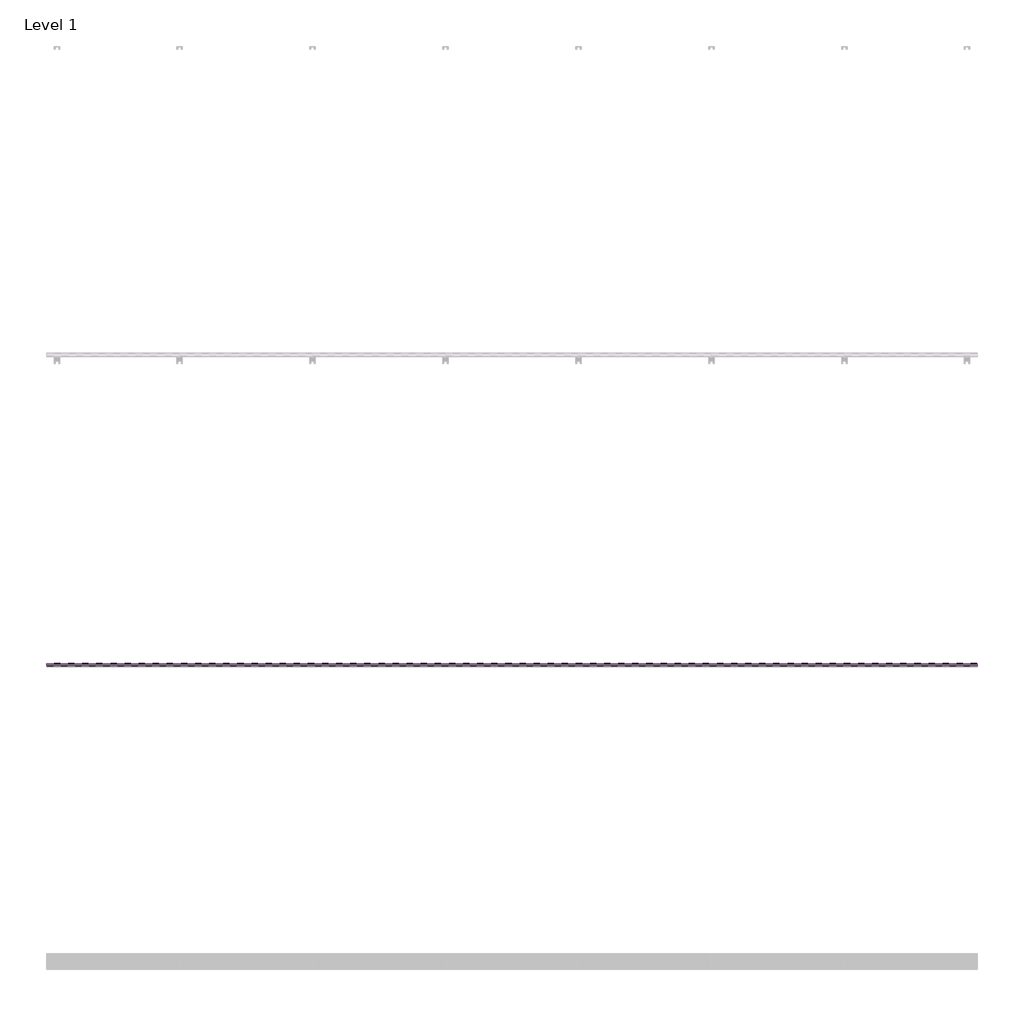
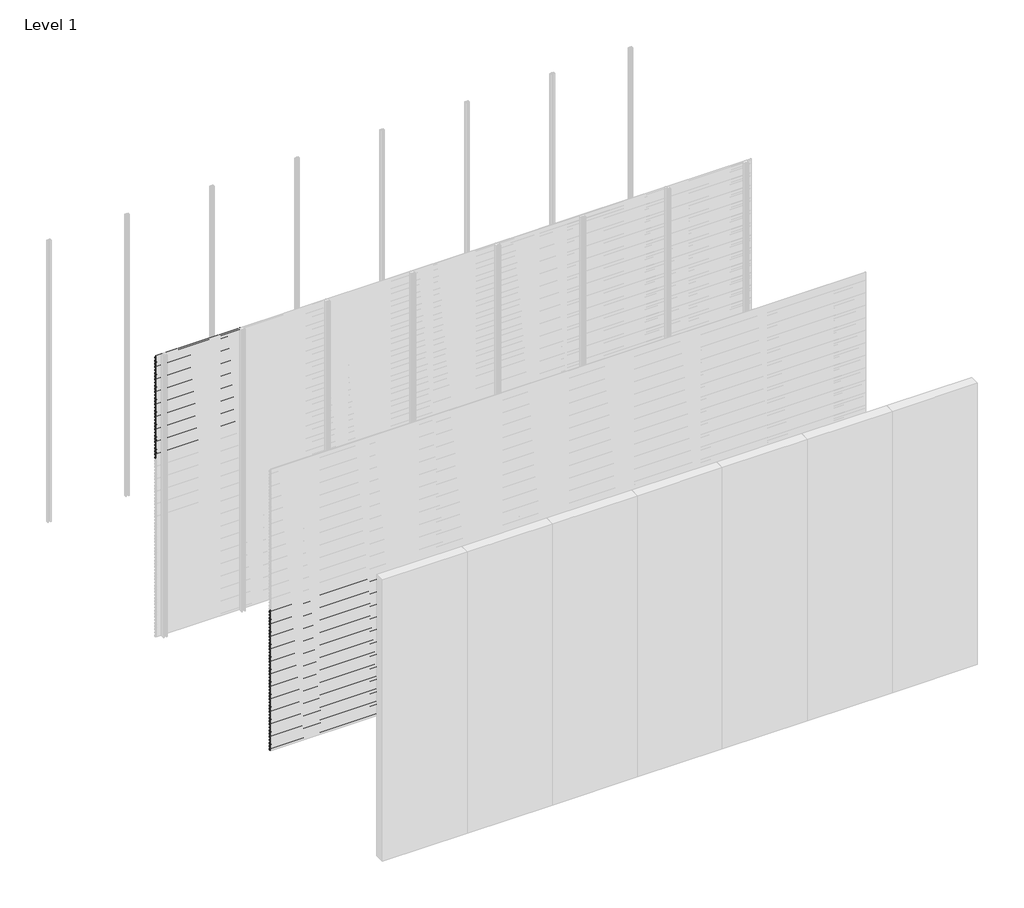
# One storey, part 70 of 96: 78 proxies.
"""IFC4 building model written with IfcOpenShell, lengths in millimetres."""

from ifc_helpers import new_model, si_unit, frame, origin, place, context, project, spatial, polyline, outline, extrude, element, save

model = new_model("IFC4")

# Units and contexts
model_context = context("Model", 3, world=origin())
ifc_project = project(units=[si_unit("LENGTHUNIT", "METRE", prefix="MILLI")], contexts=[model_context])

# Site, building, storey
site = spatial("IfcSite", under=ifc_project)
building = spatial("IfcBuilding", under=site)
storey = spatial("IfcBuildingStorey", under=building, Name="Level 1", Elevation=0.0)

# Proxies
placement = place(None, origin())
element("IfcBuildingElementProxy", 1, Name="Wall Sweeps", at=placement, inside=storey, context=model_context, shape_type="SweptSolid", body=[
    extrude(outline(polyline([(-11977.6, 2971.7655033), (-11977.6, 2957.4779188), (-11982.4114965, 2954.7), (-11982.4114965, 2955.9701706), (-11978.85, 2958.0264016), (-11978.85, 2971.0437382), (-11998.0, 2982.1000799), (-11998.0, 2997.0), (-11996.75, 2997.0), (-11996.75, 2982.8217609), (-11977.6, 2971.7655033)])), frame((0.0, 0.0, 0.0), z_axis=(1.0, 0.0, 0.0), x_axis=(0.0, 1.0, 0.0)), (0.0, 0.0, 1.0), 857.1428571),
])
element("IfcBuildingElementProxy", 2, Name="Wall Sweeps", at=placement, inside=storey, context=model_context, shape_type="SweptSolid", body=[
    extrude(outline(polyline([(-11977.6, 2938.4655033), (-11977.6, 2924.1779188), (-11982.4114965, 2921.4), (-11982.4114965, 2922.6701706), (-11978.85, 2924.7264016), (-11978.85, 2937.7437382), (-11998.0, 2948.8000799), (-11998.0, 2963.7), (-11996.75, 2963.7), (-11996.75, 2949.5217609), (-11977.6, 2938.4655033)])), frame((0.0, 0.0, 0.0), z_axis=(1.0, 0.0, 0.0), x_axis=(0.0, 1.0, 0.0)), (0.0, 0.0, 1.0), 857.1428571),
])
element("IfcBuildingElementProxy", 3, Name="Wall Sweeps", at=placement, inside=storey, context=model_context, shape_type="SweptSolid", body=[
    extrude(outline(polyline([(-11977.6, 2905.1655033), (-11977.6, 2890.8779188), (-11982.4114965, 2888.1), (-11982.4114965, 2889.3701706), (-11978.85, 2891.4264016), (-11978.85, 2904.4437382), (-11998.0, 2915.5000799), (-11998.0, 2930.4), (-11996.75, 2930.4), (-11996.75, 2916.2217609), (-11977.6, 2905.1655033)])), frame((0.0, 0.0, 0.0), z_axis=(1.0, 0.0, 0.0), x_axis=(0.0, 1.0, 0.0)), (0.0, 0.0, 1.0), 857.1428571),
])
element("IfcBuildingElementProxy", 4, Name="Wall Sweeps", at=placement, inside=storey, context=model_context, shape_type="SweptSolid", body=[
    extrude(outline(polyline([(-11977.6, 2871.8655033), (-11977.6, 2857.5779188), (-11982.4114965, 2854.8), (-11982.4114965, 2856.0701706), (-11978.85, 2858.1264016), (-11978.85, 2871.1437382), (-11998.0, 2882.2000799), (-11998.0, 2897.1), (-11996.75, 2897.1), (-11996.75, 2882.9217609), (-11977.6, 2871.8655033)])), frame((0.0, 0.0, 0.0), z_axis=(1.0, 0.0, 0.0), x_axis=(0.0, 1.0, 0.0)), (0.0, 0.0, 1.0), 857.1428571),
])
element("IfcBuildingElementProxy", 5, Name="Wall Sweeps", at=placement, inside=storey, context=model_context, shape_type="SweptSolid", body=[
    extrude(outline(polyline([(-11977.6, 2838.5655033), (-11977.6, 2824.2779188), (-11982.4114965, 2821.5), (-11982.4114965, 2822.7701706), (-11978.85, 2824.8264016), (-11978.85, 2837.8437382), (-11998.0, 2848.9000799), (-11998.0, 2863.8), (-11996.75, 2863.8), (-11996.75, 2849.6217609), (-11977.6, 2838.5655033)])), frame((0.0, 0.0, 0.0), z_axis=(1.0, 0.0, 0.0), x_axis=(0.0, 1.0, 0.0)), (0.0, 0.0, 1.0), 857.1428571),
])
element("IfcBuildingElementProxy", 6, Name="Wall Sweeps", at=placement, inside=storey, context=model_context, shape_type="SweptSolid", body=[
    extrude(outline(polyline([(-11977.6, 2805.2655033), (-11977.6, 2790.9779188), (-11982.4114965, 2788.2), (-11982.4114965, 2789.4701706), (-11978.85, 2791.5264016), (-11978.85, 2804.5437382), (-11998.0, 2815.6000799), (-11998.0, 2830.5), (-11996.75, 2830.5), (-11996.75, 2816.3217609), (-11977.6, 2805.2655033)])), frame((0.0, 0.0, 0.0), z_axis=(1.0, 0.0, 0.0), x_axis=(0.0, 1.0, 0.0)), (0.0, 0.0, 1.0), 857.1428571),
])
element("IfcBuildingElementProxy", 7, Name="Wall Sweeps", at=placement, inside=storey, context=model_context, shape_type="SweptSolid", body=[
    extrude(outline(polyline([(-11977.6, 2771.9655033), (-11977.6, 2757.6779188), (-11982.4114965, 2754.9), (-11982.4114965, 2756.1701706), (-11978.85, 2758.2264016), (-11978.85, 2771.2437382), (-11998.0, 2782.3000799), (-11998.0, 2797.2), (-11996.75, 2797.2), (-11996.75, 2783.0217609), (-11977.6, 2771.9655033)])), frame((0.0, 0.0, 0.0), z_axis=(1.0, 0.0, 0.0), x_axis=(0.0, 1.0, 0.0)), (0.0, 0.0, 1.0), 857.1428571),
])
element("IfcBuildingElementProxy", 8, Name="Wall Sweeps", at=placement, inside=storey, context=model_context, shape_type="SweptSolid", body=[
    extrude(outline(polyline([(-11977.6, 2738.6655033), (-11977.6, 2724.3779188), (-11982.4114965, 2721.6), (-11982.4114965, 2722.8701706), (-11978.85, 2724.9264016), (-11978.85, 2737.9437382), (-11998.0, 2749.0000799), (-11998.0, 2763.9), (-11996.75, 2763.9), (-11996.75, 2749.7217609), (-11977.6, 2738.6655033)])), frame((0.0, 0.0, 0.0), z_axis=(1.0, 0.0, 0.0), x_axis=(0.0, 1.0, 0.0)), (0.0, 0.0, 1.0), 857.1428571),
])
element("IfcBuildingElementProxy", 9, Name="Wall Sweeps", at=placement, inside=storey, context=model_context, shape_type="SweptSolid", body=[
    extrude(outline(polyline([(-11977.6, 2705.3655033), (-11977.6, 2691.0779188), (-11982.4114965, 2688.3), (-11982.4114965, 2689.5701706), (-11978.85, 2691.6264016), (-11978.85, 2704.6437382), (-11998.0, 2715.7000799), (-11998.0, 2730.6), (-11996.75, 2730.6), (-11996.75, 2716.4217609), (-11977.6, 2705.3655033)])), frame((0.0, 0.0, 0.0), z_axis=(1.0, 0.0, 0.0), x_axis=(0.0, 1.0, 0.0)), (0.0, 0.0, 1.0), 857.1428571),
])
element("IfcBuildingElementProxy", 10, Name="Wall Sweeps", at=placement, inside=storey, context=model_context, shape_type="SweptSolid", body=[
    extrude(outline(polyline([(-11977.6, 2672.0655033), (-11977.6, 2657.7779188), (-11982.4114965, 2655.0), (-11982.4114965, 2656.2701706), (-11978.85, 2658.3264016), (-11978.85, 2671.3437382), (-11998.0, 2682.4000799), (-11998.0, 2697.3), (-11996.75, 2697.3), (-11996.75, 2683.1217609), (-11977.6, 2672.0655033)])), frame((0.0, 0.0, 0.0), z_axis=(1.0, 0.0, 0.0), x_axis=(0.0, 1.0, 0.0)), (0.0, 0.0, 1.0), 857.1428571),
])
element("IfcBuildingElementProxy", 11, Name="Wall Sweeps", at=placement, inside=storey, context=model_context, shape_type="SweptSolid", body=[
    extrude(outline(polyline([(-11977.6, 2638.7655033), (-11977.6, 2624.4779188), (-11982.4114965, 2621.7), (-11982.4114965, 2622.9701706), (-11978.85, 2625.0264016), (-11978.85, 2638.0437382), (-11998.0, 2649.1000799), (-11998.0, 2664.0), (-11996.75, 2664.0), (-11996.75, 2649.8217609), (-11977.6, 2638.7655033)])), frame((0.0, 0.0, 0.0), z_axis=(1.0, 0.0, 0.0), x_axis=(0.0, 1.0, 0.0)), (0.0, 0.0, 1.0), 857.1428571),
])
element("IfcBuildingElementProxy", 12, Name="Wall Sweeps", at=placement, inside=storey, context=model_context, shape_type="SweptSolid", body=[
    extrude(outline(polyline([(-11977.6, 2605.4655033), (-11977.6, 2591.1779188), (-11982.4114965, 2588.4), (-11982.4114965, 2589.6701706), (-11978.85, 2591.7264016), (-11978.85, 2604.7437382), (-11998.0, 2615.8000799), (-11998.0, 2630.7), (-11996.75, 2630.7), (-11996.75, 2616.5217609), (-11977.6, 2605.4655033)])), frame((0.0, 0.0, 0.0), z_axis=(1.0, 0.0, 0.0), x_axis=(0.0, 1.0, 0.0)), (0.0, 0.0, 1.0), 857.1428571),
])
element("IfcBuildingElementProxy", 13, Name="Wall Sweeps", at=placement, inside=storey, context=model_context, shape_type="SweptSolid", body=[
    extrude(outline(polyline([(-11977.6, 2572.1655033), (-11977.6, 2557.8779188), (-11982.4114965, 2555.1), (-11982.4114965, 2556.3701706), (-11978.85, 2558.4264016), (-11978.85, 2571.4437382), (-11998.0, 2582.5000799), (-11998.0, 2597.4), (-11996.75, 2597.4), (-11996.75, 2583.2217609), (-11977.6, 2572.1655033)])), frame((0.0, 0.0, 0.0), z_axis=(1.0, 0.0, 0.0), x_axis=(0.0, 1.0, 0.0)), (0.0, 0.0, 1.0), 857.1428571),
])
element("IfcBuildingElementProxy", 14, Name="Wall Sweeps", at=placement, inside=storey, context=model_context, shape_type="SweptSolid", body=[
    extrude(outline(polyline([(-11977.6, 2538.8655033), (-11977.6, 2524.5779188), (-11982.4114965, 2521.8), (-11982.4114965, 2523.0701706), (-11978.85, 2525.1264016), (-11978.85, 2538.1437382), (-11998.0, 2549.2000799), (-11998.0, 2564.1), (-11996.75, 2564.1), (-11996.75, 2549.9217609), (-11977.6, 2538.8655033)])), frame((0.0, 0.0, 0.0), z_axis=(1.0, 0.0, 0.0), x_axis=(0.0, 1.0, 0.0)), (0.0, 0.0, 1.0), 857.1428571),
])
element("IfcBuildingElementProxy", 15, Name="Wall Sweeps", at=placement, inside=storey, context=model_context, shape_type="SweptSolid", body=[
    extrude(outline(polyline([(-11977.6, 2505.5655033), (-11977.6, 2491.2779188), (-11982.4114965, 2488.5), (-11982.4114965, 2489.7701706), (-11978.85, 2491.8264016), (-11978.85, 2504.8437382), (-11998.0, 2515.9000799), (-11998.0, 2530.8), (-11996.75, 2530.8), (-11996.75, 2516.6217609), (-11977.6, 2505.5655033)])), frame((0.0, 0.0, 0.0), z_axis=(1.0, 0.0, 0.0), x_axis=(0.0, 1.0, 0.0)), (0.0, 0.0, 1.0), 857.1428571),
])
element("IfcBuildingElementProxy", 16, Name="Wall Sweeps", at=placement, inside=storey, context=model_context, shape_type="SweptSolid", body=[
    extrude(outline(polyline([(-11977.6, 2472.2655033), (-11977.6, 2457.9779188), (-11982.4114965, 2455.2), (-11982.4114965, 2456.4701706), (-11978.85, 2458.5264016), (-11978.85, 2471.5437382), (-11998.0, 2482.6000799), (-11998.0, 2497.5), (-11996.75, 2497.5), (-11996.75, 2483.3217609), (-11977.6, 2472.2655033)])), frame((0.0, 0.0, 0.0), z_axis=(1.0, 0.0, 0.0), x_axis=(0.0, 1.0, 0.0)), (0.0, 0.0, 1.0), 857.1428571),
])
element("IfcBuildingElementProxy", 17, Name="Wall Sweeps", at=placement, inside=storey, context=model_context, shape_type="SweptSolid", body=[
    extrude(outline(polyline([(-11977.6, 2438.9655033), (-11977.6, 2424.6779188), (-11982.4114965, 2421.9), (-11982.4114965, 2423.1701706), (-11978.85, 2425.2264016), (-11978.85, 2438.2437382), (-11998.0, 2449.3000799), (-11998.0, 2464.2), (-11996.75, 2464.2), (-11996.75, 2450.0217609), (-11977.6, 2438.9655033)])), frame((0.0, 0.0, 0.0), z_axis=(1.0, 0.0, 0.0), x_axis=(0.0, 1.0, 0.0)), (0.0, 0.0, 1.0), 857.1428571),
])
element("IfcBuildingElementProxy", 18, Name="Wall Sweeps", at=placement, inside=storey, context=model_context, shape_type="SweptSolid", body=[
    extrude(outline(polyline([(-11977.6, 2405.6655033), (-11977.6, 2391.3779188), (-11982.4114965, 2388.6), (-11982.4114965, 2389.8701706), (-11978.85, 2391.9264016), (-11978.85, 2404.9437382), (-11998.0, 2416.0000799), (-11998.0, 2430.9), (-11996.75, 2430.9), (-11996.75, 2416.7217609), (-11977.6, 2405.6655033)])), frame((0.0, 0.0, 0.0), z_axis=(1.0, 0.0, 0.0), x_axis=(0.0, 1.0, 0.0)), (0.0, 0.0, 1.0), 857.1428571),
])
element("IfcBuildingElementProxy", 19, Name="Wall Sweeps", at=placement, inside=storey, context=model_context, shape_type="SweptSolid", body=[
    extrude(outline(polyline([(-11977.6, 2372.3655033), (-11977.6, 2358.0779188), (-11982.4114965, 2355.3), (-11982.4114965, 2356.5701706), (-11978.85, 2358.6264016), (-11978.85, 2371.6437382), (-11998.0, 2382.7000799), (-11998.0, 2397.6), (-11996.75, 2397.6), (-11996.75, 2383.4217609), (-11977.6, 2372.3655033)])), frame((0.0, 0.0, 0.0), z_axis=(1.0, 0.0, 0.0), x_axis=(0.0, 1.0, 0.0)), (0.0, 0.0, 1.0), 857.1428571),
])
element("IfcBuildingElementProxy", 20, Name="Wall Sweeps", at=placement, inside=storey, context=model_context, shape_type="SweptSolid", body=[
    extrude(outline(polyline([(-11977.6, 2339.0655033), (-11977.6, 2324.7779188), (-11982.4114965, 2322.0), (-11982.4114965, 2323.2701706), (-11978.85, 2325.3264016), (-11978.85, 2338.3437382), (-11998.0, 2349.4000799), (-11998.0, 2364.3), (-11996.75, 2364.3), (-11996.75, 2350.1217609), (-11977.6, 2339.0655033)])), frame((0.0, 0.0, 0.0), z_axis=(1.0, 0.0, 0.0), x_axis=(0.0, 1.0, 0.0)), (0.0, 0.0, 1.0), 857.1428571),
])
element("IfcBuildingElementProxy", 21, Name="Wall Sweeps", at=placement, inside=storey, context=model_context, shape_type="SweptSolid", body=[
    extrude(outline(polyline([(-11977.6, 2305.7655033), (-11977.6, 2291.4779188), (-11982.4114965, 2288.7), (-11982.4114965, 2289.9701706), (-11978.85, 2292.0264016), (-11978.85, 2305.0437382), (-11998.0, 2316.1000799), (-11998.0, 2331.0), (-11996.75, 2331.0), (-11996.75, 2316.8217609), (-11977.6, 2305.7655033)])), frame((0.0, 0.0, 0.0), z_axis=(1.0, 0.0, 0.0), x_axis=(0.0, 1.0, 0.0)), (0.0, 0.0, 1.0), 857.1428571),
])
element("IfcBuildingElementProxy", 22, Name="Wall Sweeps", at=placement, inside=storey, context=model_context, shape_type="SweptSolid", body=[
    extrude(outline(polyline([(-11977.6, 2272.4655033), (-11977.6, 2258.1779188), (-11982.4114965, 2255.4), (-11982.4114965, 2256.6701706), (-11978.85, 2258.7264016), (-11978.85, 2271.7437382), (-11998.0, 2282.8000799), (-11998.0, 2297.7), (-11996.75, 2297.7), (-11996.75, 2283.5217609), (-11977.6, 2272.4655033)])), frame((0.0, 0.0, 0.0), z_axis=(1.0, 0.0, 0.0), x_axis=(0.0, 1.0, 0.0)), (0.0, 0.0, 1.0), 857.1428571),
])
element("IfcBuildingElementProxy", 23, Name="Wall Sweeps", at=placement, inside=storey, context=model_context, shape_type="SweptSolid", body=[
    extrude(outline(polyline([(-11977.6, 2239.1655033), (-11977.6, 2224.8779188), (-11982.4114965, 2222.1), (-11982.4114965, 2223.3701706), (-11978.85, 2225.4264016), (-11978.85, 2238.4437382), (-11998.0, 2249.5000799), (-11998.0, 2264.4), (-11996.75, 2264.4), (-11996.75, 2250.2217609), (-11977.6, 2239.1655033)])), frame((0.0, 0.0, 0.0), z_axis=(1.0, 0.0, 0.0), x_axis=(0.0, 1.0, 0.0)), (0.0, 0.0, 1.0), 857.1428571),
])
element("IfcBuildingElementProxy", 24, Name="Wall Sweeps", at=placement, inside=storey, context=model_context, shape_type="SweptSolid", body=[
    extrude(outline(polyline([(-11977.6, 2205.8655033), (-11977.6, 2191.5779188), (-11982.4114965, 2188.8), (-11982.4114965, 2190.0701706), (-11978.85, 2192.1264016), (-11978.85, 2205.1437382), (-11998.0, 2216.2000799), (-11998.0, 2231.1), (-11996.75, 2231.1), (-11996.75, 2216.9217609), (-11977.6, 2205.8655033)])), frame((0.0, 0.0, 0.0), z_axis=(1.0, 0.0, 0.0), x_axis=(0.0, 1.0, 0.0)), (0.0, 0.0, 1.0), 857.1428571),
])
element("IfcBuildingElementProxy", 25, Name="Wall Sweeps", at=placement, inside=storey, context=model_context, shape_type="SweptSolid", body=[
    extrude(outline(polyline([(-11977.6, 2172.5655033), (-11977.6, 2158.2779188), (-11982.4114965, 2155.5), (-11982.4114965, 2156.7701706), (-11978.85, 2158.8264016), (-11978.85, 2171.8437382), (-11998.0, 2182.9000799), (-11998.0, 2197.8), (-11996.75, 2197.8), (-11996.75, 2183.6217609), (-11977.6, 2172.5655033)])), frame((0.0, 0.0, 0.0), z_axis=(1.0, 0.0, 0.0), x_axis=(0.0, 1.0, 0.0)), (0.0, 0.0, 1.0), 857.1428571),
])
element("IfcBuildingElementProxy", 26, Name="Wall Sweeps", at=placement, inside=storey, context=model_context, shape_type="SweptSolid", body=[
    extrude(outline(polyline([(-11977.6, 2139.2655033), (-11977.6, 2124.9779188), (-11982.4114965, 2122.2), (-11982.4114965, 2123.4701706), (-11978.85, 2125.5264016), (-11978.85, 2138.5437382), (-11998.0, 2149.6000799), (-11998.0, 2164.5), (-11996.75, 2164.5), (-11996.75, 2150.3217609), (-11977.6, 2139.2655033)])), frame((0.0, 0.0, 0.0), z_axis=(1.0, 0.0, 0.0), x_axis=(0.0, 1.0, 0.0)), (0.0, 0.0, 1.0), 857.1428571),
])
element("IfcBuildingElementProxy", 27, Name="Wall Sweeps", at=placement, inside=storey, context=model_context, shape_type="SweptSolid", body=[
    extrude(outline(polyline([(-11977.6, 2105.9655033), (-11977.6, 2091.6779188), (-11982.4114965, 2088.9), (-11982.4114965, 2090.1701706), (-11978.85, 2092.2264016), (-11978.85, 2105.2437382), (-11998.0, 2116.3000799), (-11998.0, 2131.2), (-11996.75, 2131.2), (-11996.75, 2117.0217609), (-11977.6, 2105.9655033)])), frame((0.0, 0.0, 0.0), z_axis=(1.0, 0.0, 0.0), x_axis=(0.0, 1.0, 0.0)), (0.0, 0.0, 1.0), 857.1428571),
])
element("IfcBuildingElementProxy", 28, Name="Wall Sweeps", at=placement, inside=storey, context=model_context, shape_type="SweptSolid", body=[
    extrude(outline(polyline([(-11977.6, 2072.6655033), (-11977.6, 2058.3779188), (-11982.4114965, 2055.6), (-11982.4114965, 2056.8701706), (-11978.85, 2058.9264016), (-11978.85, 2071.9437382), (-11998.0, 2083.0000799), (-11998.0, 2097.9), (-11996.75, 2097.9), (-11996.75, 2083.7217609), (-11977.6, 2072.6655033)])), frame((0.0, 0.0, 0.0), z_axis=(1.0, 0.0, 0.0), x_axis=(0.0, 1.0, 0.0)), (0.0, 0.0, 1.0), 857.1428571),
])
element("IfcBuildingElementProxy", 29, Name="Wall Sweeps", at=placement, inside=storey, context=model_context, shape_type="SweptSolid", body=[
    extrude(outline(polyline([(-11977.6, 2039.3655033), (-11977.6, 2025.0779188), (-11982.4114965, 2022.3), (-11982.4114965, 2023.5701706), (-11978.85, 2025.6264016), (-11978.85, 2038.6437382), (-11998.0, 2049.7000799), (-11998.0, 2064.6), (-11996.75, 2064.6), (-11996.75, 2050.4217609), (-11977.6, 2039.3655033)])), frame((0.0, 0.0, 0.0), z_axis=(1.0, 0.0, 0.0), x_axis=(0.0, 1.0, 0.0)), (0.0, 0.0, 1.0), 857.1428571),
])
element("IfcBuildingElementProxy", 30, Name="Wall Sweeps", at=placement, inside=storey, context=model_context, shape_type="SweptSolid", body=[
    extrude(outline(polyline([(-11977.6, 2006.0655033), (-11977.6, 1991.7779188), (-11982.4114965, 1989.0), (-11982.4114965, 1990.2701706), (-11978.85, 1992.3264016), (-11978.85, 2005.3437382), (-11998.0, 2016.4000799), (-11998.0, 2031.3), (-11996.75, 2031.3), (-11996.75, 2017.1217609), (-11977.6, 2006.0655033)])), frame((0.0, 0.0, 0.0), z_axis=(1.0, 0.0, 0.0), x_axis=(0.0, 1.0, 0.0)), (0.0, 0.0, 1.0), 857.1428571),
])
element("IfcBuildingElementProxy", 31, Name="Wall Sweeps", at=placement, inside=storey, context=model_context, shape_type="SweptSolid", body=[
    extrude(outline(polyline([(-11977.6, 1972.7655033), (-11977.6, 1958.4779188), (-11982.4114965, 1955.7), (-11982.4114965, 1956.9701706), (-11978.85, 1959.0264016), (-11978.85, 1972.0437382), (-11998.0, 1983.1000799), (-11998.0, 1998.0), (-11996.75, 1998.0), (-11996.75, 1983.8217609), (-11977.6, 1972.7655033)])), frame((0.0, 0.0, 0.0), z_axis=(1.0, 0.0, 0.0), x_axis=(0.0, 1.0, 0.0)), (0.0, 0.0, 1.0), 857.1428571),
])
element("IfcBuildingElementProxy", 32, Name="Wall Sweeps", at=placement, inside=storey, context=model_context, shape_type="SweptSolid", body=[
    extrude(outline(polyline([(-11977.6, 1939.4655033), (-11977.6, 1925.1779188), (-11982.4114965, 1922.4), (-11982.4114965, 1923.6701706), (-11978.85, 1925.7264016), (-11978.85, 1938.7437382), (-11998.0, 1949.8000799), (-11998.0, 1964.7), (-11996.75, 1964.7), (-11996.75, 1950.5217609), (-11977.6, 1939.4655033)])), frame((0.0, 0.0, 0.0), z_axis=(1.0, 0.0, 0.0), x_axis=(0.0, 1.0, 0.0)), (0.0, 0.0, 1.0), 857.1428571),
])
element("IfcBuildingElementProxy", 33, Name="Wall Sweeps", at=placement, inside=storey, context=model_context, shape_type="SweptSolid", body=[
    extrude(outline(polyline([(-11977.6, 1906.1655033), (-11977.6, 1891.8779188), (-11982.4114965, 1889.1), (-11982.4114965, 1890.3701706), (-11978.85, 1892.4264016), (-11978.85, 1905.4437382), (-11998.0, 1916.5000799), (-11998.0, 1931.4), (-11996.75, 1931.4), (-11996.75, 1917.2217609), (-11977.6, 1906.1655033)])), frame((0.0, 0.0, 0.0), z_axis=(1.0, 0.0, 0.0), x_axis=(0.0, 1.0, 0.0)), (0.0, 0.0, 1.0), 857.1428571),
])
element("IfcBuildingElementProxy", 34, Name="Wall Sweeps", at=placement, inside=storey, context=model_context, shape_type="SweptSolid", body=[
    extrude(outline(polyline([(-13977.6, 1473.2655033), (-13977.6, 1458.9779188), (-13982.4114965, 1456.2), (-13982.4114965, 1457.4701706), (-13978.85, 1459.5264016), (-13978.85, 1472.5437382), (-13998.0, 1483.6000799), (-13998.0, 1498.5), (-13996.75, 1498.5), (-13996.75, 1484.3217609), (-13977.6, 1473.2655033)])), frame((0.0, 0.0, 0.0), z_axis=(1.0, 0.0, 0.0), x_axis=(0.0, 1.0, 0.0)), (0.0, 0.0, 1.0), 6000.0),
])
element("IfcBuildingElementProxy", 35, Name="Wall Sweeps", at=placement, inside=storey, context=model_context, shape_type="SweptSolid", body=[
    extrude(outline(polyline([(-13977.6, 1439.9655033), (-13977.6, 1425.6779188), (-13982.4114965, 1422.9), (-13982.4114965, 1424.1701706), (-13978.85, 1426.2264016), (-13978.85, 1439.2437382), (-13998.0, 1450.3000799), (-13998.0, 1465.2), (-13996.75, 1465.2), (-13996.75, 1451.0217609), (-13977.6, 1439.9655033)])), frame((0.0, 0.0, 0.0), z_axis=(1.0, 0.0, 0.0), x_axis=(0.0, 1.0, 0.0)), (0.0, 0.0, 1.0), 6000.0),
])
element("IfcBuildingElementProxy", 36, Name="Wall Sweeps", at=placement, inside=storey, context=model_context, shape_type="SweptSolid", body=[
    extrude(outline(polyline([(-13977.6, 1406.6655033), (-13977.6, 1392.3779188), (-13982.4114965, 1389.6), (-13982.4114965, 1390.8701706), (-13978.85, 1392.9264016), (-13978.85, 1405.9437382), (-13998.0, 1417.0000799), (-13998.0, 1431.9), (-13996.75, 1431.9), (-13996.75, 1417.7217609), (-13977.6, 1406.6655033)])), frame((0.0, 0.0, 0.0), z_axis=(1.0, 0.0, 0.0), x_axis=(0.0, 1.0, 0.0)), (0.0, 0.0, 1.0), 6000.0),
])
element("IfcBuildingElementProxy", 37, Name="Wall Sweeps", at=placement, inside=storey, context=model_context, shape_type="SweptSolid", body=[
    extrude(outline(polyline([(-13977.6, 1373.3655033), (-13977.6, 1359.0779188), (-13982.4114965, 1356.3), (-13982.4114965, 1357.5701706), (-13978.85, 1359.6264016), (-13978.85, 1372.6437382), (-13998.0, 1383.7000799), (-13998.0, 1398.6), (-13996.75, 1398.6), (-13996.75, 1384.4217609), (-13977.6, 1373.3655033)])), frame((0.0, 0.0, 0.0), z_axis=(1.0, 0.0, 0.0), x_axis=(0.0, 1.0, 0.0)), (0.0, 0.0, 1.0), 6000.0),
])
element("IfcBuildingElementProxy", 38, Name="Wall Sweeps", at=placement, inside=storey, context=model_context, shape_type="SweptSolid", body=[
    extrude(outline(polyline([(-13977.6, 1340.0655033), (-13977.6, 1325.7779188), (-13982.4114965, 1323.0), (-13982.4114965, 1324.2701706), (-13978.85, 1326.3264016), (-13978.85, 1339.3437382), (-13998.0, 1350.4000799), (-13998.0, 1365.3), (-13996.75, 1365.3), (-13996.75, 1351.1217609), (-13977.6, 1340.0655033)])), frame((0.0, 0.0, 0.0), z_axis=(1.0, 0.0, 0.0), x_axis=(0.0, 1.0, 0.0)), (0.0, 0.0, 1.0), 6000.0),
])
element("IfcBuildingElementProxy", 39, Name="Wall Sweeps", at=placement, inside=storey, context=model_context, shape_type="SweptSolid", body=[
    extrude(outline(polyline([(-13977.6, 1306.7655033), (-13977.6, 1292.4779188), (-13982.4114965, 1289.7), (-13982.4114965, 1290.9701706), (-13978.85, 1293.0264016), (-13978.85, 1306.0437382), (-13998.0, 1317.1000799), (-13998.0, 1332.0), (-13996.75, 1332.0), (-13996.75, 1317.8217609), (-13977.6, 1306.7655033)])), frame((0.0, 0.0, 0.0), z_axis=(1.0, 0.0, 0.0), x_axis=(0.0, 1.0, 0.0)), (0.0, 0.0, 1.0), 6000.0),
])
element("IfcBuildingElementProxy", 40, Name="Wall Sweeps", at=placement, inside=storey, context=model_context, shape_type="SweptSolid", body=[
    extrude(outline(polyline([(-13977.6, 1273.4655033), (-13977.6, 1259.1779188), (-13982.4114965, 1256.4), (-13982.4114965, 1257.6701706), (-13978.85, 1259.7264016), (-13978.85, 1272.7437382), (-13998.0, 1283.8000799), (-13998.0, 1298.7), (-13996.75, 1298.7), (-13996.75, 1284.5217609), (-13977.6, 1273.4655033)])), frame((0.0, 0.0, 0.0), z_axis=(1.0, 0.0, 0.0), x_axis=(0.0, 1.0, 0.0)), (0.0, 0.0, 1.0), 6000.0),
])
element("IfcBuildingElementProxy", 41, Name="Wall Sweeps", at=placement, inside=storey, context=model_context, shape_type="SweptSolid", body=[
    extrude(outline(polyline([(-13977.6, 1240.1655033), (-13977.6, 1225.8779188), (-13982.4114965, 1223.1), (-13982.4114965, 1224.3701706), (-13978.85, 1226.4264016), (-13978.85, 1239.4437382), (-13998.0, 1250.5000799), (-13998.0, 1265.4), (-13996.75, 1265.4), (-13996.75, 1251.2217609), (-13977.6, 1240.1655033)])), frame((0.0, 0.0, 0.0), z_axis=(1.0, 0.0, 0.0), x_axis=(0.0, 1.0, 0.0)), (0.0, 0.0, 1.0), 6000.0),
])
element("IfcBuildingElementProxy", 42, Name="Wall Sweeps", at=placement, inside=storey, context=model_context, shape_type="SweptSolid", body=[
    extrude(outline(polyline([(-13977.6, 1206.8655033), (-13977.6, 1192.5779188), (-13982.4114965, 1189.8), (-13982.4114965, 1191.0701706), (-13978.85, 1193.1264016), (-13978.85, 1206.1437382), (-13998.0, 1217.2000799), (-13998.0, 1232.1), (-13996.75, 1232.1), (-13996.75, 1217.9217609), (-13977.6, 1206.8655033)])), frame((0.0, 0.0, 0.0), z_axis=(1.0, 0.0, 0.0), x_axis=(0.0, 1.0, 0.0)), (0.0, 0.0, 1.0), 6000.0),
])
element("IfcBuildingElementProxy", 43, Name="Wall Sweeps", at=placement, inside=storey, context=model_context, shape_type="SweptSolid", body=[
    extrude(outline(polyline([(-13977.6, 1173.5655033), (-13977.6, 1159.2779188), (-13982.4114965, 1156.5), (-13982.4114965, 1157.7701706), (-13978.85, 1159.8264016), (-13978.85, 1172.8437382), (-13998.0, 1183.9000799), (-13998.0, 1198.8), (-13996.75, 1198.8), (-13996.75, 1184.6217609), (-13977.6, 1173.5655033)])), frame((0.0, 0.0, 0.0), z_axis=(1.0, 0.0, 0.0), x_axis=(0.0, 1.0, 0.0)), (0.0, 0.0, 1.0), 6000.0),
])
element("IfcBuildingElementProxy", 44, Name="Wall Sweeps", at=placement, inside=storey, context=model_context, shape_type="SweptSolid", body=[
    extrude(outline(polyline([(-13977.6, 1140.2655033), (-13977.6, 1125.9779188), (-13982.4114965, 1123.2), (-13982.4114965, 1124.4701706), (-13978.85, 1126.5264016), (-13978.85, 1139.5437382), (-13998.0, 1150.6000799), (-13998.0, 1165.5), (-13996.75, 1165.5), (-13996.75, 1151.3217609), (-13977.6, 1140.2655033)])), frame((0.0, 0.0, 0.0), z_axis=(1.0, 0.0, 0.0), x_axis=(0.0, 1.0, 0.0)), (0.0, 0.0, 1.0), 6000.0),
])
element("IfcBuildingElementProxy", 45, Name="Wall Sweeps", at=placement, inside=storey, context=model_context, shape_type="SweptSolid", body=[
    extrude(outline(polyline([(-13977.6, 1106.9655033), (-13977.6, 1092.6779188), (-13982.4114965, 1089.9), (-13982.4114965, 1091.1701706), (-13978.85, 1093.2264016), (-13978.85, 1106.2437382), (-13998.0, 1117.3000799), (-13998.0, 1132.2), (-13996.75, 1132.2), (-13996.75, 1118.0217609), (-13977.6, 1106.9655033)])), frame((0.0, 0.0, 0.0), z_axis=(1.0, 0.0, 0.0), x_axis=(0.0, 1.0, 0.0)), (0.0, 0.0, 1.0), 6000.0),
])
element("IfcBuildingElementProxy", 46, Name="Wall Sweeps", at=placement, inside=storey, context=model_context, shape_type="SweptSolid", body=[
    extrude(outline(polyline([(-13977.6, 1073.6655033), (-13977.6, 1059.3779188), (-13982.4114965, 1056.6), (-13982.4114965, 1057.8701706), (-13978.85, 1059.9264016), (-13978.85, 1072.9437382), (-13998.0, 1084.0000799), (-13998.0, 1098.9), (-13996.75, 1098.9), (-13996.75, 1084.7217609), (-13977.6, 1073.6655033)])), frame((0.0, 0.0, 0.0), z_axis=(1.0, 0.0, 0.0), x_axis=(0.0, 1.0, 0.0)), (0.0, 0.0, 1.0), 6000.0),
])
element("IfcBuildingElementProxy", 47, Name="Wall Sweeps", at=placement, inside=storey, context=model_context, shape_type="SweptSolid", body=[
    extrude(outline(polyline([(-13977.6, 1040.3655033), (-13977.6, 1026.0779188), (-13982.4114965, 1023.3), (-13982.4114965, 1024.5701706), (-13978.85, 1026.6264016), (-13978.85, 1039.6437382), (-13998.0, 1050.7000799), (-13998.0, 1065.6), (-13996.75, 1065.6), (-13996.75, 1051.4217609), (-13977.6, 1040.3655033)])), frame((0.0, 0.0, 0.0), z_axis=(1.0, 0.0, 0.0), x_axis=(0.0, 1.0, 0.0)), (0.0, 0.0, 1.0), 6000.0),
])
element("IfcBuildingElementProxy", 48, Name="Wall Sweeps", at=placement, inside=storey, context=model_context, shape_type="SweptSolid", body=[
    extrude(outline(polyline([(-13977.6, 1007.0655033), (-13977.6, 992.7779188), (-13982.4114965, 990.0), (-13982.4114965, 991.2701706), (-13978.85, 993.3264016), (-13978.85, 1006.3437382), (-13998.0, 1017.4000799), (-13998.0, 1032.3), (-13996.75, 1032.3), (-13996.75, 1018.1217609), (-13977.6, 1007.0655033)])), frame((0.0, 0.0, 0.0), z_axis=(1.0, 0.0, 0.0), x_axis=(0.0, 1.0, 0.0)), (0.0, 0.0, 1.0), 6000.0),
])
element("IfcBuildingElementProxy", 49, Name="Wall Sweeps", at=placement, inside=storey, context=model_context, shape_type="SweptSolid", body=[
    extrude(outline(polyline([(-13977.6, 973.7655033), (-13977.6, 959.4779188), (-13982.4114965, 956.7), (-13982.4114965, 957.9701706), (-13978.85, 960.0264016), (-13978.85, 973.0437382), (-13998.0, 984.1000799), (-13998.0, 999.0), (-13996.75, 999.0), (-13996.75, 984.8217609), (-13977.6, 973.7655033)])), frame((0.0, 0.0, 0.0), z_axis=(1.0, 0.0, 0.0), x_axis=(0.0, 1.0, 0.0)), (0.0, 0.0, 1.0), 6000.0),
])
element("IfcBuildingElementProxy", 50, Name="Wall Sweeps", at=placement, inside=storey, context=model_context, shape_type="SweptSolid", body=[
    extrude(outline(polyline([(-13977.6, 940.4655033), (-13977.6, 926.1779188), (-13982.4114965, 923.4), (-13982.4114965, 924.6701706), (-13978.85, 926.7264016), (-13978.85, 939.7437382), (-13998.0, 950.8000799), (-13998.0, 965.7), (-13996.75, 965.7), (-13996.75, 951.5217609), (-13977.6, 940.4655033)])), frame((0.0, 0.0, 0.0), z_axis=(1.0, 0.0, 0.0), x_axis=(0.0, 1.0, 0.0)), (0.0, 0.0, 1.0), 6000.0),
])
element("IfcBuildingElementProxy", 51, Name="Wall Sweeps", at=placement, inside=storey, context=model_context, shape_type="SweptSolid", body=[
    extrude(outline(polyline([(-13977.6, 907.1655033), (-13977.6, 892.8779188), (-13982.4114965, 890.1), (-13982.4114965, 891.3701706), (-13978.85, 893.4264016), (-13978.85, 906.4437382), (-13998.0, 917.5000799), (-13998.0, 932.4), (-13996.75, 932.4), (-13996.75, 918.2217609), (-13977.6, 907.1655033)])), frame((0.0, 0.0, 0.0), z_axis=(1.0, 0.0, 0.0), x_axis=(0.0, 1.0, 0.0)), (0.0, 0.0, 1.0), 6000.0),
])
element("IfcBuildingElementProxy", 52, Name="Wall Sweeps", at=placement, inside=storey, context=model_context, shape_type="SweptSolid", body=[
    extrude(outline(polyline([(-13977.6, 873.8655033), (-13977.6, 859.5779188), (-13982.4114965, 856.8), (-13982.4114965, 858.0701706), (-13978.85, 860.1264016), (-13978.85, 873.1437382), (-13998.0, 884.2000799), (-13998.0, 899.1), (-13996.75, 899.1), (-13996.75, 884.9217609), (-13977.6, 873.8655033)])), frame((0.0, 0.0, 0.0), z_axis=(1.0, 0.0, 0.0), x_axis=(0.0, 1.0, 0.0)), (0.0, 0.0, 1.0), 6000.0),
])
element("IfcBuildingElementProxy", 53, Name="Wall Sweeps", at=placement, inside=storey, context=model_context, shape_type="SweptSolid", body=[
    extrude(outline(polyline([(-13977.6, 840.5655033), (-13977.6, 826.2779188), (-13982.4114965, 823.5), (-13982.4114965, 824.7701706), (-13978.85, 826.8264016), (-13978.85, 839.8437382), (-13998.0, 850.9000799), (-13998.0, 865.8), (-13996.75, 865.8), (-13996.75, 851.6217609), (-13977.6, 840.5655033)])), frame((0.0, 0.0, 0.0), z_axis=(1.0, 0.0, 0.0), x_axis=(0.0, 1.0, 0.0)), (0.0, 0.0, 1.0), 6000.0),
])
element("IfcBuildingElementProxy", 54, Name="Wall Sweeps", at=placement, inside=storey, context=model_context, shape_type="SweptSolid", body=[
    extrude(outline(polyline([(-13977.6, 807.2655033), (-13977.6, 792.9779188), (-13982.4114965, 790.2), (-13982.4114965, 791.4701706), (-13978.85, 793.5264016), (-13978.85, 806.5437382), (-13998.0, 817.6000799), (-13998.0, 832.5), (-13996.75, 832.5), (-13996.75, 818.3217609), (-13977.6, 807.2655033)])), frame((0.0, 0.0, 0.0), z_axis=(1.0, 0.0, 0.0), x_axis=(0.0, 1.0, 0.0)), (0.0, 0.0, 1.0), 6000.0),
])
element("IfcBuildingElementProxy", 55, Name="Wall Sweeps", at=placement, inside=storey, context=model_context, shape_type="SweptSolid", body=[
    extrude(outline(polyline([(-13977.6, 773.9655033), (-13977.6, 759.6779188), (-13982.4114965, 756.9), (-13982.4114965, 758.1701706), (-13978.85, 760.2264016), (-13978.85, 773.2437382), (-13998.0, 784.3000799), (-13998.0, 799.2), (-13996.75, 799.2), (-13996.75, 785.0217609), (-13977.6, 773.9655033)])), frame((0.0, 0.0, 0.0), z_axis=(1.0, 0.0, 0.0), x_axis=(0.0, 1.0, 0.0)), (0.0, 0.0, 1.0), 6000.0),
])
element("IfcBuildingElementProxy", 56, Name="Wall Sweeps", at=placement, inside=storey, context=model_context, shape_type="SweptSolid", body=[
    extrude(outline(polyline([(-13977.6, 740.6655033), (-13977.6, 726.3779188), (-13982.4114965, 723.6), (-13982.4114965, 724.8701706), (-13978.85, 726.9264016), (-13978.85, 739.9437382), (-13998.0, 751.0000799), (-13998.0, 765.9), (-13996.75, 765.9), (-13996.75, 751.7217609), (-13977.6, 740.6655033)])), frame((0.0, 0.0, 0.0), z_axis=(1.0, 0.0, 0.0), x_axis=(0.0, 1.0, 0.0)), (0.0, 0.0, 1.0), 6000.0),
])
element("IfcBuildingElementProxy", 57, Name="Wall Sweeps", at=placement, inside=storey, context=model_context, shape_type="SweptSolid", body=[
    extrude(outline(polyline([(-13977.6, 707.3655033), (-13977.6, 693.0779188), (-13982.4114965, 690.3), (-13982.4114965, 691.5701706), (-13978.85, 693.6264016), (-13978.85, 706.6437382), (-13998.0, 717.7000799), (-13998.0, 732.6), (-13996.75, 732.6), (-13996.75, 718.4217609), (-13977.6, 707.3655033)])), frame((0.0, 0.0, 0.0), z_axis=(1.0, 0.0, 0.0), x_axis=(0.0, 1.0, 0.0)), (0.0, 0.0, 1.0), 6000.0),
])
element("IfcBuildingElementProxy", 58, Name="Wall Sweeps", at=placement, inside=storey, context=model_context, shape_type="SweptSolid", body=[
    extrude(outline(polyline([(-13977.6, 674.0655033), (-13977.6, 659.7779188), (-13982.4114965, 657.0), (-13982.4114965, 658.2701706), (-13978.85, 660.3264016), (-13978.85, 673.3437382), (-13998.0, 684.4000799), (-13998.0, 699.3), (-13996.75, 699.3), (-13996.75, 685.1217609), (-13977.6, 674.0655033)])), frame((0.0, 0.0, 0.0), z_axis=(1.0, 0.0, 0.0), x_axis=(0.0, 1.0, 0.0)), (0.0, 0.0, 1.0), 6000.0),
])
element("IfcBuildingElementProxy", 59, Name="Wall Sweeps", at=placement, inside=storey, context=model_context, shape_type="SweptSolid", body=[
    extrude(outline(polyline([(-13977.6, 640.7655033), (-13977.6, 626.4779188), (-13982.4114965, 623.7), (-13982.4114965, 624.9701706), (-13978.85, 627.0264016), (-13978.85, 640.0437382), (-13998.0, 651.1000799), (-13998.0, 666.0), (-13996.75, 666.0), (-13996.75, 651.8217609), (-13977.6, 640.7655033)])), frame((0.0, 0.0, 0.0), z_axis=(1.0, 0.0, 0.0), x_axis=(0.0, 1.0, 0.0)), (0.0, 0.0, 1.0), 6000.0),
])
element("IfcBuildingElementProxy", 60, Name="Wall Sweeps", at=placement, inside=storey, context=model_context, shape_type="SweptSolid", body=[
    extrude(outline(polyline([(-13977.6, 607.4655033), (-13977.6, 593.1779188), (-13982.4114965, 590.4), (-13982.4114965, 591.6701706), (-13978.85, 593.7264016), (-13978.85, 606.7437382), (-13998.0, 617.8000799), (-13998.0, 632.7), (-13996.75, 632.7), (-13996.75, 618.5217609), (-13977.6, 607.4655033)])), frame((0.0, 0.0, 0.0), z_axis=(1.0, 0.0, 0.0), x_axis=(0.0, 1.0, 0.0)), (0.0, 0.0, 1.0), 6000.0),
])
element("IfcBuildingElementProxy", 61, Name="Wall Sweeps", at=placement, inside=storey, context=model_context, shape_type="SweptSolid", body=[
    extrude(outline(polyline([(-13977.6, 574.1655033), (-13977.6, 559.8779188), (-13982.4114965, 557.1), (-13982.4114965, 558.3701706), (-13978.85, 560.4264016), (-13978.85, 573.4437382), (-13998.0, 584.5000799), (-13998.0, 599.4), (-13996.75, 599.4), (-13996.75, 585.2217609), (-13977.6, 574.1655033)])), frame((0.0, 0.0, 0.0), z_axis=(1.0, 0.0, 0.0), x_axis=(0.0, 1.0, 0.0)), (0.0, 0.0, 1.0), 6000.0),
])
element("IfcBuildingElementProxy", 62, Name="Wall Sweeps", at=placement, inside=storey, context=model_context, shape_type="SweptSolid", body=[
    extrude(outline(polyline([(-13977.6, 540.8655033), (-13977.6, 526.5779188), (-13982.4114965, 523.8), (-13982.4114965, 525.0701706), (-13978.85, 527.1264016), (-13978.85, 540.1437382), (-13998.0, 551.2000799), (-13998.0, 566.1), (-13996.75, 566.1), (-13996.75, 551.9217609), (-13977.6, 540.8655033)])), frame((0.0, 0.0, 0.0), z_axis=(1.0, 0.0, 0.0), x_axis=(0.0, 1.0, 0.0)), (0.0, 0.0, 1.0), 6000.0),
])
element("IfcBuildingElementProxy", 63, Name="Wall Sweeps", at=placement, inside=storey, context=model_context, shape_type="SweptSolid", body=[
    extrude(outline(polyline([(-13977.6, 507.5655033), (-13977.6, 493.2779188), (-13982.4114965, 490.5), (-13982.4114965, 491.7701706), (-13978.85, 493.8264016), (-13978.85, 506.8437382), (-13998.0, 517.9000799), (-13998.0, 532.8), (-13996.75, 532.8), (-13996.75, 518.6217609), (-13977.6, 507.5655033)])), frame((0.0, 0.0, 0.0), z_axis=(1.0, 0.0, 0.0), x_axis=(0.0, 1.0, 0.0)), (0.0, 0.0, 1.0), 6000.0),
])
element("IfcBuildingElementProxy", 64, Name="Wall Sweeps", at=placement, inside=storey, context=model_context, shape_type="SweptSolid", body=[
    extrude(outline(polyline([(-13977.6, 474.2655033), (-13977.6, 459.9779188), (-13982.4114965, 457.2), (-13982.4114965, 458.4701706), (-13978.85, 460.5264016), (-13978.85, 473.5437382), (-13998.0, 484.6000799), (-13998.0, 499.5), (-13996.75, 499.5), (-13996.75, 485.3217609), (-13977.6, 474.2655033)])), frame((0.0, 0.0, 0.0), z_axis=(1.0, 0.0, 0.0), x_axis=(0.0, 1.0, 0.0)), (0.0, 0.0, 1.0), 6000.0),
])
element("IfcBuildingElementProxy", 65, Name="Wall Sweeps", at=placement, inside=storey, context=model_context, shape_type="SweptSolid", body=[
    extrude(outline(polyline([(-13977.6, 440.9655033), (-13977.6, 426.6779188), (-13982.4114965, 423.9), (-13982.4114965, 425.1701706), (-13978.85, 427.2264016), (-13978.85, 440.2437382), (-13998.0, 451.3000799), (-13998.0, 466.2), (-13996.75, 466.2), (-13996.75, 452.0217609), (-13977.6, 440.9655033)])), frame((0.0, 0.0, 0.0), z_axis=(1.0, 0.0, 0.0), x_axis=(0.0, 1.0, 0.0)), (0.0, 0.0, 1.0), 6000.0),
])
element("IfcBuildingElementProxy", 66, Name="Wall Sweeps", at=placement, inside=storey, context=model_context, shape_type="SweptSolid", body=[
    extrude(outline(polyline([(-13977.6, 407.6655033), (-13977.6, 393.3779188), (-13982.4114965, 390.6), (-13982.4114965, 391.8701706), (-13978.85, 393.9264016), (-13978.85, 406.9437382), (-13998.0, 418.0000799), (-13998.0, 432.9), (-13996.75, 432.9), (-13996.75, 418.7217609), (-13977.6, 407.6655033)])), frame((0.0, 0.0, 0.0), z_axis=(1.0, 0.0, 0.0), x_axis=(0.0, 1.0, 0.0)), (0.0, 0.0, 1.0), 6000.0),
])
element("IfcBuildingElementProxy", 67, Name="Wall Sweeps", at=placement, inside=storey, context=model_context, shape_type="SweptSolid", body=[
    extrude(outline(polyline([(-13977.6, 374.3655033), (-13977.6, 360.0779188), (-13982.4114965, 357.3), (-13982.4114965, 358.5701706), (-13978.85, 360.6264016), (-13978.85, 373.6437382), (-13998.0, 384.7000799), (-13998.0, 399.6), (-13996.75, 399.6), (-13996.75, 385.4217609), (-13977.6, 374.3655033)])), frame((0.0, 0.0, 0.0), z_axis=(1.0, 0.0, 0.0), x_axis=(0.0, 1.0, 0.0)), (0.0, 0.0, 1.0), 6000.0),
])
element("IfcBuildingElementProxy", 68, Name="Wall Sweeps", at=placement, inside=storey, context=model_context, shape_type="SweptSolid", body=[
    extrude(outline(polyline([(-13977.6, 341.0655033), (-13977.6, 326.7779188), (-13982.4114965, 324.0), (-13982.4114965, 325.2701706), (-13978.85, 327.3264016), (-13978.85, 340.3437382), (-13998.0, 351.4000799), (-13998.0, 366.3), (-13996.75, 366.3), (-13996.75, 352.1217609), (-13977.6, 341.0655033)])), frame((0.0, 0.0, 0.0), z_axis=(1.0, 0.0, 0.0), x_axis=(0.0, 1.0, 0.0)), (0.0, 0.0, 1.0), 6000.0),
])
element("IfcBuildingElementProxy", 69, Name="Wall Sweeps", at=placement, inside=storey, context=model_context, shape_type="SweptSolid", body=[
    extrude(outline(polyline([(-13977.6, 307.7655033), (-13977.6, 293.4779188), (-13982.4114965, 290.7), (-13982.4114965, 291.9701706), (-13978.85, 294.0264016), (-13978.85, 307.0437382), (-13998.0, 318.1000799), (-13998.0, 333.0), (-13996.75, 333.0), (-13996.75, 318.8217609), (-13977.6, 307.7655033)])), frame((0.0, 0.0, 0.0), z_axis=(1.0, 0.0, 0.0), x_axis=(0.0, 1.0, 0.0)), (0.0, 0.0, 1.0), 6000.0),
])
element("IfcBuildingElementProxy", 70, Name="Wall Sweeps", at=placement, inside=storey, context=model_context, shape_type="SweptSolid", body=[
    extrude(outline(polyline([(-13977.6, 274.4655033), (-13977.6, 260.1779188), (-13982.4114965, 257.4), (-13982.4114965, 258.6701706), (-13978.85, 260.7264016), (-13978.85, 273.7437382), (-13998.0, 284.8000799), (-13998.0, 299.7), (-13996.75, 299.7), (-13996.75, 285.5217609), (-13977.6, 274.4655033)])), frame((0.0, 0.0, 0.0), z_axis=(1.0, 0.0, 0.0), x_axis=(0.0, 1.0, 0.0)), (0.0, 0.0, 1.0), 6000.0),
])
element("IfcBuildingElementProxy", 71, Name="Wall Sweeps", at=placement, inside=storey, context=model_context, shape_type="SweptSolid", body=[
    extrude(outline(polyline([(-13977.6, 241.1655033), (-13977.6, 226.8779188), (-13982.4114965, 224.1), (-13982.4114965, 225.3701706), (-13978.85, 227.4264016), (-13978.85, 240.4437382), (-13998.0, 251.5000799), (-13998.0, 266.4), (-13996.75, 266.4), (-13996.75, 252.2217609), (-13977.6, 241.1655033)])), frame((0.0, 0.0, 0.0), z_axis=(1.0, 0.0, 0.0), x_axis=(0.0, 1.0, 0.0)), (0.0, 0.0, 1.0), 6000.0),
])
element("IfcBuildingElementProxy", 72, Name="Wall Sweeps", at=placement, inside=storey, context=model_context, shape_type="SweptSolid", body=[
    extrude(outline(polyline([(-13977.6, 207.8655033), (-13977.6, 193.5779188), (-13982.4114965, 190.8), (-13982.4114965, 192.0701706), (-13978.85, 194.1264016), (-13978.85, 207.1437382), (-13998.0, 218.2000799), (-13998.0, 233.1), (-13996.75, 233.1), (-13996.75, 218.9217609), (-13977.6, 207.8655033)])), frame((0.0, 0.0, 0.0), z_axis=(1.0, 0.0, 0.0), x_axis=(0.0, 1.0, 0.0)), (0.0, 0.0, 1.0), 6000.0),
])
element("IfcBuildingElementProxy", 73, Name="Wall Sweeps", at=placement, inside=storey, context=model_context, shape_type="SweptSolid", body=[
    extrude(outline(polyline([(-13977.6, 174.5655033), (-13977.6, 160.2779188), (-13982.4114965, 157.5), (-13982.4114965, 158.7701706), (-13978.85, 160.8264016), (-13978.85, 173.8437382), (-13998.0, 184.9000799), (-13998.0, 199.8), (-13996.75, 199.8), (-13996.75, 185.6217609), (-13977.6, 174.5655033)])), frame((0.0, 0.0, 0.0), z_axis=(1.0, 0.0, 0.0), x_axis=(0.0, 1.0, 0.0)), (0.0, 0.0, 1.0), 6000.0),
])
element("IfcBuildingElementProxy", 74, Name="Wall Sweeps", at=placement, inside=storey, context=model_context, shape_type="SweptSolid", body=[
    extrude(outline(polyline([(-13977.6, 141.2655033), (-13977.6, 126.9779188), (-13982.4114965, 124.2), (-13982.4114965, 125.4701706), (-13978.85, 127.5264016), (-13978.85, 140.5437382), (-13998.0, 151.6000799), (-13998.0, 166.5), (-13996.75, 166.5), (-13996.75, 152.3217609), (-13977.6, 141.2655033)])), frame((0.0, 0.0, 0.0), z_axis=(1.0, 0.0, 0.0), x_axis=(0.0, 1.0, 0.0)), (0.0, 0.0, 1.0), 6000.0),
])
element("IfcBuildingElementProxy", 75, Name="Wall Sweeps", at=placement, inside=storey, context=model_context, shape_type="SweptSolid", body=[
    extrude(outline(polyline([(-13977.6, 107.9655033), (-13977.6, 93.6779188), (-13982.4114965, 90.9), (-13982.4114965, 92.1701706), (-13978.85, 94.2264016), (-13978.85, 107.2437382), (-13998.0, 118.3000799), (-13998.0, 133.2), (-13996.75, 133.2), (-13996.75, 119.0217609), (-13977.6, 107.9655033)])), frame((0.0, 0.0, 0.0), z_axis=(1.0, 0.0, 0.0), x_axis=(0.0, 1.0, 0.0)), (0.0, 0.0, 1.0), 6000.0),
])
element("IfcBuildingElementProxy", 76, Name="Wall Sweeps", at=placement, inside=storey, context=model_context, shape_type="SweptSolid", body=[
    extrude(outline(polyline([(-13977.6, 74.6655033), (-13977.6, 60.3779188), (-13982.4114965, 57.6), (-13982.4114965, 58.8701706), (-13978.85, 60.9264016), (-13978.85, 73.9437382), (-13998.0, 85.0000799), (-13998.0, 99.9), (-13996.75, 99.9), (-13996.75, 85.7217609), (-13977.6, 74.6655033)])), frame((0.0, 0.0, 0.0), z_axis=(1.0, 0.0, 0.0), x_axis=(0.0, 1.0, 0.0)), (0.0, 0.0, 1.0), 6000.0),
])
element("IfcBuildingElementProxy", 77, Name="Wall Sweeps", at=placement, inside=storey, context=model_context, shape_type="SweptSolid", body=[
    extrude(outline(polyline([(-13977.6, 41.3655033), (-13977.6, 27.0779188), (-13982.4114965, 24.3), (-13982.4114965, 25.5701706), (-13978.85, 27.6264016), (-13978.85, 40.6437382), (-13998.0, 51.7000799), (-13998.0, 66.6), (-13996.75, 66.6), (-13996.75, 52.4217609), (-13977.6, 41.3655033)])), frame((0.0, 0.0, 0.0), z_axis=(1.0, 0.0, 0.0), x_axis=(0.0, 1.0, 0.0)), (0.0, 0.0, 1.0), 6000.0),
])
element("IfcBuildingElementProxy", 78, Name="Wall Sweeps", at=placement, inside=storey, context=model_context, shape_type="SweptSolid", body=[
    extrude(outline(polyline([(-13977.6, 8.0655033), (-13977.6, -6.2220812), (-13982.4114965, -9.0), (-13982.4114965, -7.7298294), (-13978.85, -5.6735984), (-13978.85, 7.3437382), (-13998.0, 18.4000799), (-13998.0, 33.3), (-13996.75, 33.3), (-13996.75, 19.1217609), (-13977.6, 8.0655033)])), frame((0.0, 0.0, 0.0), z_axis=(1.0, 0.0, 0.0), x_axis=(0.0, 1.0, 0.0)), (0.0, 0.0, 1.0), 6000.0),
])

save(model, "model.ifc")
